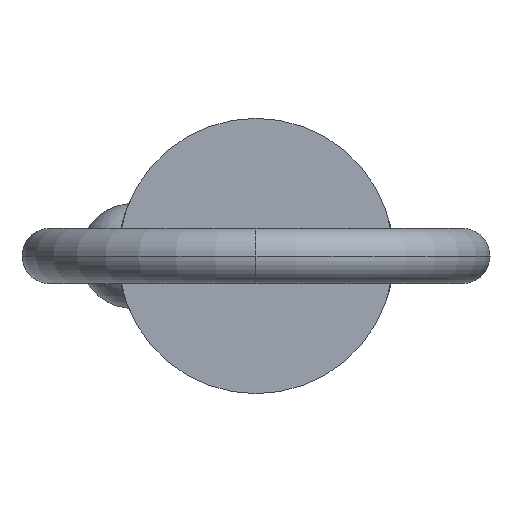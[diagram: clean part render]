
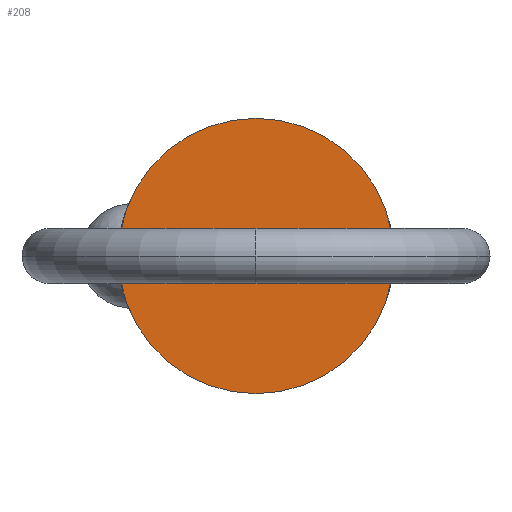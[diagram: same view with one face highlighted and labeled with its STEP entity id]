
A CAD part, left-side view. The second image highlights one B-rep face of the part: STEP entity #208.
In plain terms, the highlighted planar face has unit normal (-1, 0, 0).
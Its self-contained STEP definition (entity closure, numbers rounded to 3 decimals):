
#64 = CARTESIAN_POINT ( 'NONE',  ( 0., 0., 0. ) ) ;
#131 = DIRECTION ( 'NONE',  ( 0., 0., -1. ) ) ;
#150 = VERTEX_POINT ( 'NONE', #468 ) ;
#187 = AXIS2_PLACEMENT_3D ( 'NONE', #941, #530, #902 ) ;
#208 = ADVANCED_FACE ( 'NONE', ( #715 ), #307, .T. ) ;
#247 = DIRECTION ( 'NONE',  ( -1., 0., 0. ) ) ;
#302 = EDGE_LOOP ( 'NONE', ( #674, #943 ) ) ;
#307 = PLANE ( 'NONE',  #592 ) ;
#432 = CARTESIAN_POINT ( 'NONE',  ( 0., 0., -12.7 ) ) ;
#468 = CARTESIAN_POINT ( 'NONE',  ( 0., 0., 12.7 ) ) ;
#530 = DIRECTION ( 'NONE',  ( 1., 0., 0. ) ) ;
#566 = DIRECTION ( 'NONE',  ( 0., 0., 1. ) ) ;
#592 = AXIS2_PLACEMENT_3D ( 'NONE', #637, #247, #566 ) ;
#637 = CARTESIAN_POINT ( 'NONE',  ( 0., 0., 0. ) ) ;
#674 = ORIENTED_EDGE ( 'NONE', *, *, #793, .F. ) ;
#715 = FACE_OUTER_BOUND ( 'NONE', #302, .T. ) ;
#750 = DIRECTION ( 'NONE',  ( 1., 0., 0. ) ) ;
#767 = CIRCLE ( 'NONE', #851, 12.7 ) ;
#793 = EDGE_CURVE ( 'NONE', #877, #150, #767, .T. ) ;
#804 = CIRCLE ( 'NONE', #187, 12.7 ) ;
#851 = AXIS2_PLACEMENT_3D ( 'NONE', #64, #750, #131 ) ;
#877 = VERTEX_POINT ( 'NONE', #432 ) ;
#902 = DIRECTION ( 'NONE',  ( 0., 0., -1. ) ) ;
#941 = CARTESIAN_POINT ( 'NONE',  ( 0., 0., 0. ) ) ;
#943 = ORIENTED_EDGE ( 'NONE', *, *, #986, .F. ) ;
#986 = EDGE_CURVE ( 'NONE', #150, #877, #804, .T. ) ;
